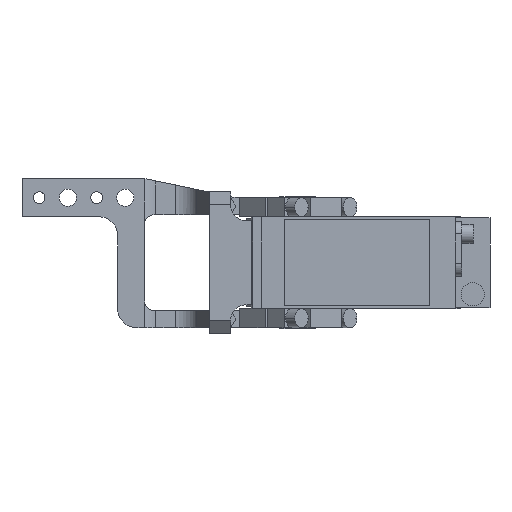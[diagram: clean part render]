
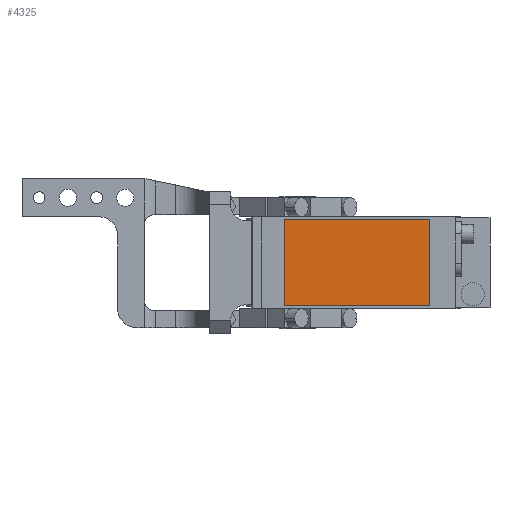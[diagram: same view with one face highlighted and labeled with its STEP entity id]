
A CAD part, front view. The second image highlights one B-rep face of the part: STEP entity #4325.
In plain terms, the highlighted planar face has unit normal (0, -1, 0).
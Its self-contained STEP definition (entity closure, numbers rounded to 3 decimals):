
#36 = DIRECTION ( 'NONE',  ( 0., 0., -1. ) ) ;
#107 = LINE ( 'NONE', #11388, #7917 ) ;
#195 = PLANE ( 'NONE',  #1691 ) ;
#378 = EDGE_LOOP ( 'NONE', ( #14693, #9687, #6700, #4504 ) ) ;
#476 = CARTESIAN_POINT ( 'NONE',  ( -7., -280.5, 22.5 ) ) ;
#1342 = DIRECTION ( 'NONE',  ( 1., 0., 0. ) ) ;
#1691 = AXIS2_PLACEMENT_3D ( 'NONE', #6931, #4635, #36 ) ;
#2378 = CARTESIAN_POINT ( 'NONE',  ( -7., -280.5, -22.5 ) ) ;
#2485 = LINE ( 'NONE', #10575, #11690 ) ;
#2656 = VERTEX_POINT ( 'NONE', #11589 ) ;
#2743 = VERTEX_POINT ( 'NONE', #2378 ) ;
#4325 = ADVANCED_FACE ( 'NONE', ( #12667 ), #195, .T. ) ;
#4504 = ORIENTED_EDGE ( 'NONE', *, *, #5147, .T. ) ;
#4635 = DIRECTION ( 'NONE',  ( 0., -1., 0. ) ) ;
#5147 = EDGE_CURVE ( 'NONE', #2656, #7860, #11260, .T. ) ;
#5509 = DIRECTION ( 'NONE',  ( -1., 0., 0. ) ) ;
#6022 = VERTEX_POINT ( 'NONE', #11782 ) ;
#6443 = EDGE_CURVE ( 'NONE', #6022, #2656, #107, .T. ) ;
#6615 = VECTOR ( 'NONE', #8798, 1000. ) ;
#6700 = ORIENTED_EDGE ( 'NONE', *, *, #6443, .T. ) ;
#6931 = CARTESIAN_POINT ( 'NONE',  ( 0., -280.5, 0. ) ) ;
#7860 = VERTEX_POINT ( 'NONE', #9918 ) ;
#7917 = VECTOR ( 'NONE', #14862, 1000. ) ;
#8758 = EDGE_CURVE ( 'NONE', #2743, #6022, #2485, .T. ) ;
#8798 = DIRECTION ( 'NONE',  ( 0., 0., -1. ) ) ;
#8958 = EDGE_CURVE ( 'NONE', #7860, #2743, #13106, .T. ) ;
#9687 = ORIENTED_EDGE ( 'NONE', *, *, #8758, .T. ) ;
#9833 = CARTESIAN_POINT ( 'NONE',  ( -7., -280.5, 22.5 ) ) ;
#9918 = CARTESIAN_POINT ( 'NONE',  ( -7., -280.5, 22.5 ) ) ;
#10575 = CARTESIAN_POINT ( 'NONE',  ( -7., -280.5, -22.5 ) ) ;
#11260 = LINE ( 'NONE', #9833, #14568 ) ;
#11388 = CARTESIAN_POINT ( 'NONE',  ( 69., -280.5, 22.5 ) ) ;
#11589 = CARTESIAN_POINT ( 'NONE',  ( 69., -280.5, 22.5 ) ) ;
#11690 = VECTOR ( 'NONE', #1342, 1000. ) ;
#11782 = CARTESIAN_POINT ( 'NONE',  ( 69., -280.5, -22.5 ) ) ;
#12667 = FACE_OUTER_BOUND ( 'NONE', #378, .T. ) ;
#13106 = LINE ( 'NONE', #476, #6615 ) ;
#14568 = VECTOR ( 'NONE', #5509, 1000. ) ;
#14693 = ORIENTED_EDGE ( 'NONE', *, *, #8958, .T. ) ;
#14862 = DIRECTION ( 'NONE',  ( 0., 0., 1. ) ) ;
